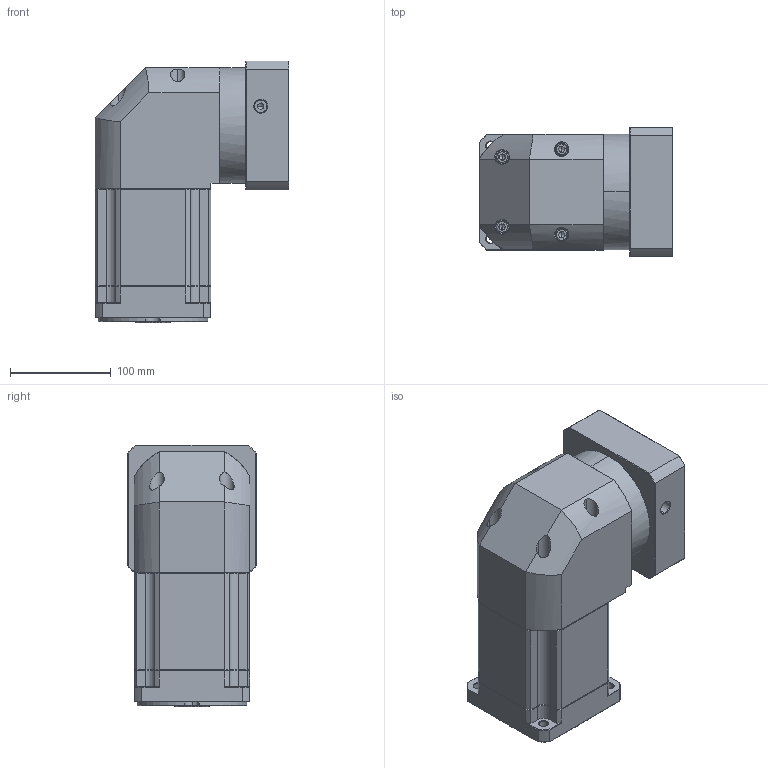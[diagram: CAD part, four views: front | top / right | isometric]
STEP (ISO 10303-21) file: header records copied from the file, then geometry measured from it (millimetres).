
FILE_DESCRIPTION (( 'STEP AP214' ), '1' );
FILE_NAME ('ZBR115A-K25-L3-P2-24-110-145-M8.step', '2023-08-26T12:46:34', ( '' ), ( '' ), 'SwSTEP 2.0', 'SolidWorks 2016', '' );
FILE_SCHEMA (( 'AUTOMOTIVE_DESIGN' ));
Length unit declared in the file: millimetre
Products named in the file (1): ZBR115A-K25-L3-P2-24-110-145-M8
Bounding box: 192.4 x 128 x 260 mm (x, y, z)
Volume: 3653840.3 mm3; surface area: 276048 mm2
Topology: 6 solids, 6 shells, 2324 faces, 6096 edges, 3876 vertices
Faces by surface type: plane 1132, bspline 415, cylinder 406, cone 363, torus 8
Entity records: 122679 total; most frequent: CARTESIAN_POINT 43235, ORIENTED_EDGE 12136, DIRECTION 9611, EDGE_CURVE 6068, LINE 3939, VECTOR 3939, VERTEX_POINT 3876, AXIS2_PLACEMENT_3D 2836
